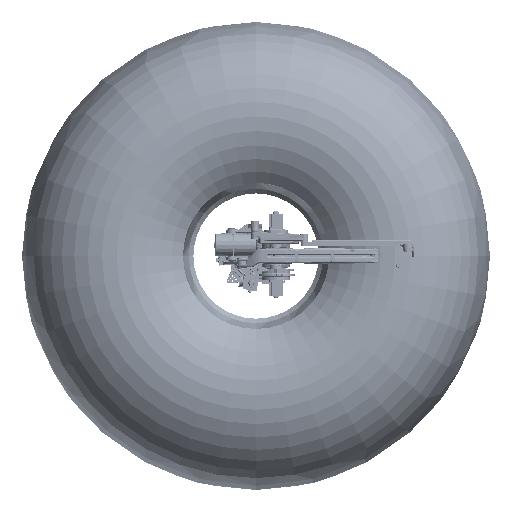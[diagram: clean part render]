
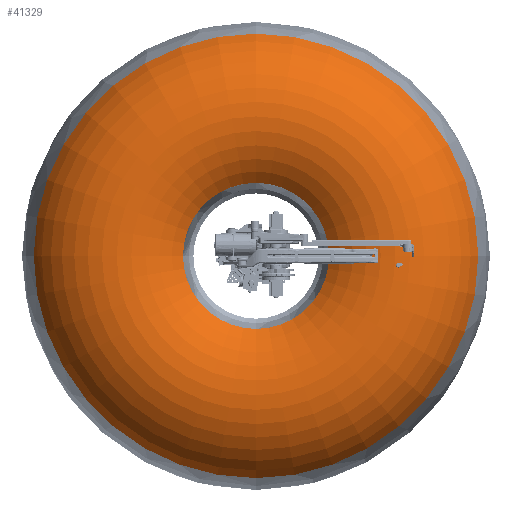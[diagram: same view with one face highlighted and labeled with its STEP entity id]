
A CAD part, top view. The second image highlights one B-rep face of the part: STEP entity #41329.
In plain terms, the highlighted toroidal (fillet/blend) face has major radius 1868.93 mm and minor radius 1250 mm.
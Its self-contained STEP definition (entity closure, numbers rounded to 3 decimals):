
#15410=TOROIDAL_SURFACE('',#158088,1868.927,1250.);
#15930=FACE_BOUND('',#59630,.T.);
#15931=FACE_BOUND('',#59631,.T.);
#41329=ADVANCED_FACE('',(#15930,#15931),#15410,.T.);
#59630=EDGE_LOOP('',(#100536));
#59631=EDGE_LOOP('',(#100537));
#100536=ORIENTED_EDGE('',*,*,#133614,.T.);
#100537=ORIENTED_EDGE('',*,*,#133613,.F.);
#113160=VERTEX_POINT('',#343536);
#113161=VERTEX_POINT('',#343566);
#133613=EDGE_CURVE('',#113160,#113160,#142477,.T.);
#133614=EDGE_CURVE('',#113161,#113161,#142478,.T.);
#142477=CIRCLE('',#158086,2997.159);
#142478=CIRCLE('',#158087,985.044);
#158086=AXIS2_PLACEMENT_3D('',#343535,#196399,#196400);
#158087=AXIS2_PLACEMENT_3D('',#343565,#196401,#196402);
#158088=AXIS2_PLACEMENT_3D('',#343567,#196403,#196404);
#196399=DIRECTION('',(0.,0.,-1.));
#196400=DIRECTION('',(-1.,0.,0.));
#196401=DIRECTION('',(0.,0.,-1.));
#196402=DIRECTION('',(-1.,0.,0.));
#196403=DIRECTION('',(0.,0.,-1.));
#196404=DIRECTION('',(-1.,0.,0.));
#343535=CARTESIAN_POINT('',(0.,0.,1525.065));
#343536=CARTESIAN_POINT('',(-2997.159,0.,1525.065));
#343565=CARTESIAN_POINT('',(0.,0.,1870.809));
#343566=CARTESIAN_POINT('',(-985.044,0.,1870.809));
#343567=CARTESIAN_POINT('',(0.,0.,986.926));
